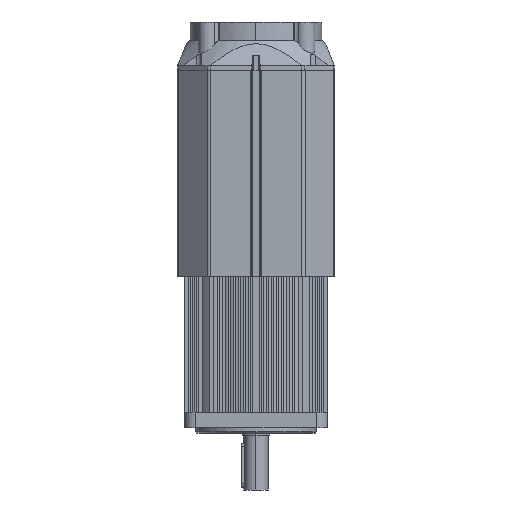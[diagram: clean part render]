
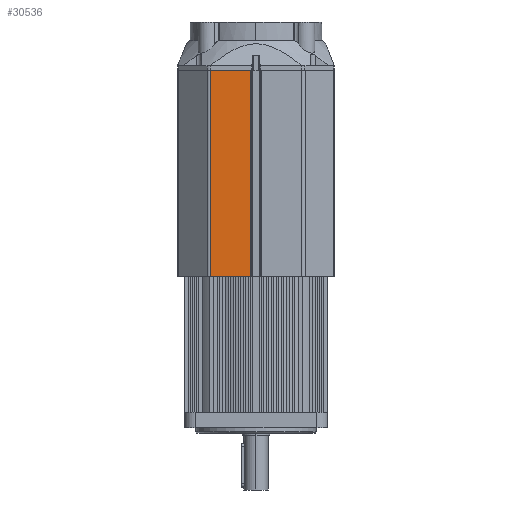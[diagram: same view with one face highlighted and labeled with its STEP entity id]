
A CAD part, front view. The second image highlights one B-rep face of the part: STEP entity #30536.
In plain terms, the highlighted planar face has unit normal (0, -1, 0).
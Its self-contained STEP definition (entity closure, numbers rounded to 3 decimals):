
#942 = EDGE_CURVE ( 'NONE', #26325, #50141, #8528, .T. ) ;
#1363 = ORIENTED_EDGE ( 'NONE', *, *, #18730, .F. ) ;
#1664 = DIRECTION ( 'NONE',  ( 1., 0., 0. ) ) ;
#2538 = VECTOR ( 'NONE', #5227, 1000. ) ;
#5227 = DIRECTION ( 'NONE',  ( 0., 0., -1. ) ) ;
#5597 = LINE ( 'NONE', #6734, #55060 ) ;
#6734 = CARTESIAN_POINT ( 'NONE',  ( -60.288, -74.002, 151.75 ) ) ;
#6857 = EDGE_CURVE ( 'NONE', #50141, #27274, #18757, .T. ) ;
#7441 = VECTOR ( 'NONE', #15318, 1000. ) ;
#8528 = LINE ( 'NONE', #9881, #2538 ) ;
#8666 = FACE_OUTER_BOUND ( 'NONE', #30407, .T. ) ;
#9209 = LINE ( 'NONE', #9396, #19203 ) ;
#9396 = CARTESIAN_POINT ( 'NONE',  ( -65.216, -74.002, 151.75 ) ) ;
#9881 = CARTESIAN_POINT ( 'NONE',  ( -101.692, -74.002, 151.75 ) ) ;
#10990 = CARTESIAN_POINT ( 'NONE',  ( -101.692, -74.002, 151.75 ) ) ;
#15318 = DIRECTION ( 'NONE',  ( 1., 0., 0. ) ) ;
#16017 = CARTESIAN_POINT ( 'NONE',  ( -65.216, -74.002, 151.75 ) ) ;
#16183 = DIRECTION ( 'NONE',  ( 0., -1., 0. ) ) ;
#18509 = AXIS2_PLACEMENT_3D ( 'NONE', #50791, #16183, #29472 ) ;
#18730 = EDGE_CURVE ( 'NONE', #26325, #40623, #5597, .T. ) ;
#18757 = LINE ( 'NONE', #41315, #7441 ) ;
#19203 = VECTOR ( 'NONE', #26189, 1000. ) ;
#19275 = CARTESIAN_POINT ( 'NONE',  ( -65.216, -74.002, -36.25 ) ) ;
#20211 = EDGE_CURVE ( 'NONE', #27274, #40623, #9209, .T. ) ;
#25627 = CARTESIAN_POINT ( 'NONE',  ( -101.692, -74.002, -36.25 ) ) ;
#26189 = DIRECTION ( 'NONE',  ( 0., 0., 1. ) ) ;
#26325 = VERTEX_POINT ( 'NONE', #10990 ) ;
#27274 = VERTEX_POINT ( 'NONE', #19275 ) ;
#29472 = DIRECTION ( 'NONE',  ( 0., 0., 1. ) ) ;
#29768 = ORIENTED_EDGE ( 'NONE', *, *, #20211, .T. ) ;
#30407 = EDGE_LOOP ( 'NONE', ( #1363, #47577, #43883, #29768 ) ) ;
#30536 = ADVANCED_FACE ( 'NONE', ( #8666 ), #54953, .T. ) ;
#40623 = VERTEX_POINT ( 'NONE', #16017 ) ;
#41315 = CARTESIAN_POINT ( 'NONE',  ( -60.288, -74.002, -36.25 ) ) ;
#43883 = ORIENTED_EDGE ( 'NONE', *, *, #6857, .T. ) ;
#47577 = ORIENTED_EDGE ( 'NONE', *, *, #942, .T. ) ;
#50141 = VERTEX_POINT ( 'NONE', #25627 ) ;
#50791 = CARTESIAN_POINT ( 'NONE',  ( -60.288, -74.002, 151.75 ) ) ;
#54953 = PLANE ( 'NONE',  #18509 ) ;
#55060 = VECTOR ( 'NONE', #1664, 1000. ) ;
